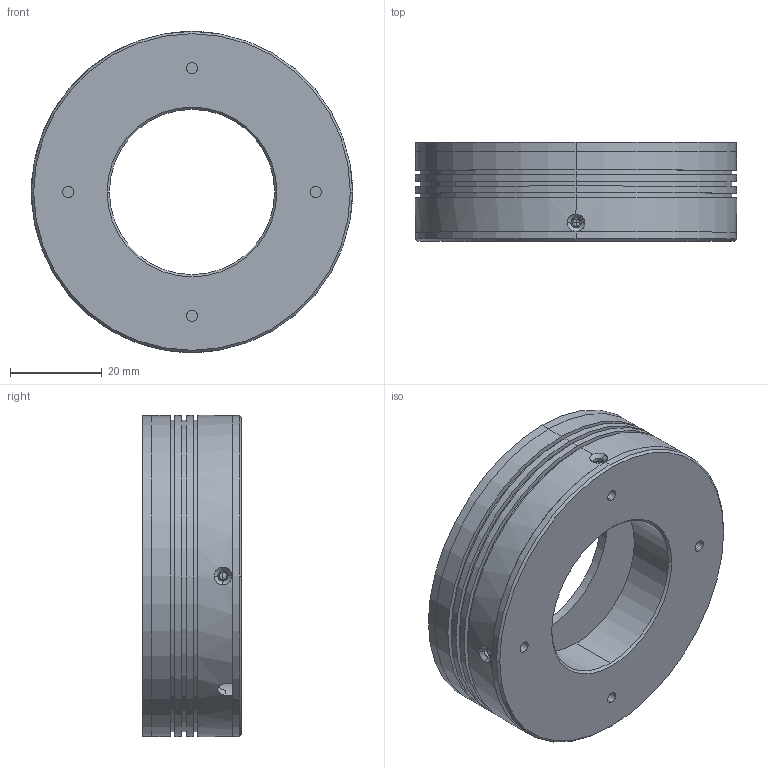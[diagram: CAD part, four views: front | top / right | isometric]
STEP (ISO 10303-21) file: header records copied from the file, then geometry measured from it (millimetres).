
FILE_DESCRIPTION (( 'STEP AP203' ), '1' );
FILE_NAME ('CST-RS7090-¼òÒ×3DÍ¼.STEP', '2021-12-17T03:02:44', ( 'Admin' ), ( '' ), 'SwSTEP 2.0', 'SolidWorks 2018', '' );
FILE_SCHEMA (( 'CONFIG_CONTROL_DESIGN' ));
Length unit declared in the file: millimetre
Products named in the file (1): CST-RS7090-潠眢3D芞
Bounding box: 70 x 21.5 x 70 mm (x, y, z)
Surface area: 23071.7 mm2 (no closed solid volume)
Topology: 0 solids, 4 shells, 107 faces, 297 edges, 200 vertices
Faces by surface type: cylinder 66, plane 16, bspline 13, cone 12
Entity records: 4677 total; most frequent: CARTESIAN_POINT 1878, DIRECTION 565, ORIENTED_EDGE 531, EDGE_CURVE 295, AXIS2_PLACEMENT_3D 239, VERTEX_POINT 200, EDGE_LOOP 145, CIRCLE 144
